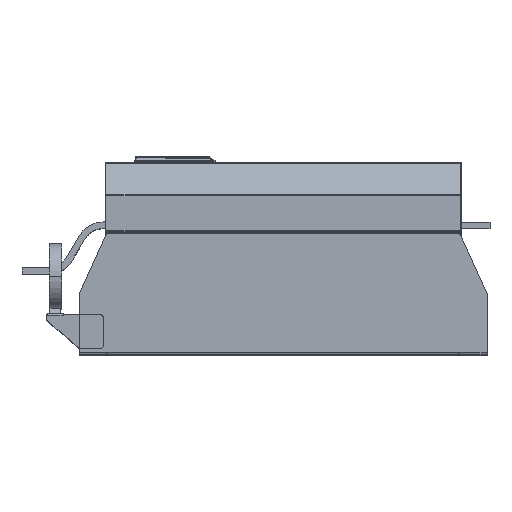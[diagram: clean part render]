
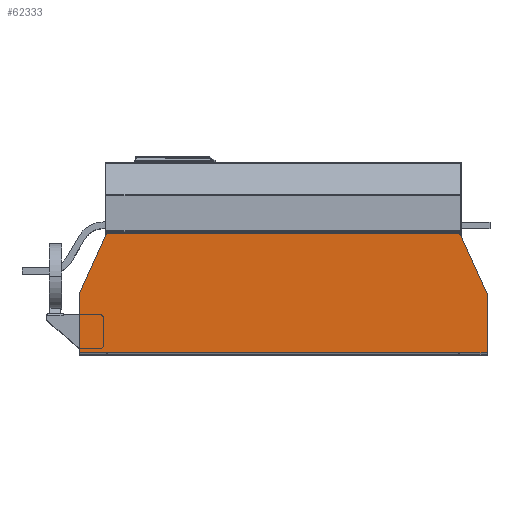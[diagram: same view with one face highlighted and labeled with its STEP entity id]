
A CAD part, top view. The second image highlights one B-rep face of the part: STEP entity #62333.
In plain terms, the highlighted planar face has unit normal (0, 0, 1).
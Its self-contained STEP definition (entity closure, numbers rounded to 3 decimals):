
#14289 = CARTESIAN_POINT ( 'NONE',  ( -375., 2.8, 286.9 ) ) ;
#17012 = LINE ( 'NONE', #196006, #18585 ) ;
#17229 = VECTOR ( 'NONE', #195903, 1000. ) ;
#17415 = LINE ( 'NONE', #195525, #17472 ) ;
#17470 = LINE ( 'NONE', #196001, #19702 ) ;
#17472 = VECTOR ( 'NONE', #195506, 1000. ) ;
#17692 = VECTOR ( 'NONE', #181938, 1000. ) ;
#18295 = LINE ( 'NONE', #195443, #18636 ) ;
#18326 = LINE ( 'NONE', #195682, #20147 ) ;
#18561 = LINE ( 'NONE', #195897, #17229 ) ;
#18585 = VECTOR ( 'NONE', #196003, 1000. ) ;
#18636 = VECTOR ( 'NONE', #195240, 1000. ) ;
#18726 = VECTOR ( 'NONE', #182132, 1000. ) ;
#19092 = LINE ( 'NONE', #182154, #18726 ) ;
#19340 = VECTOR ( 'NONE', #195910, 1000. ) ;
#19442 = VECTOR ( 'NONE', #195724, 1000. ) ;
#19702 = VECTOR ( 'NONE', #196008, 1000. ) ;
#19816 = LINE ( 'NONE', #195917, #19340 ) ;
#19922 = LINE ( 'NONE', #182074, #17692 ) ;
#19931 = LINE ( 'NONE', #195719, #19442 ) ;
#20147 = VECTOR ( 'NONE', #195660, 1000. ) ;
#34592 = CARTESIAN_POINT ( 'NONE',  ( 325., 221.2, 286.9 ) ) ;
#35121 = CARTESIAN_POINT ( 'NONE',  ( -325., 221.2, 286.9 ) ) ;
#35377 = CARTESIAN_POINT ( 'NONE',  ( 375., 2.8, 286.9 ) ) ;
#35496 = CARTESIAN_POINT ( 'NONE',  ( 325., 222.2, 286.9 ) ) ;
#37805 = EDGE_CURVE ( 'NONE', #185722, #112863, #19092, .T. ) ;
#37816 = EDGE_CURVE ( 'NONE', #113600, #185722, #19922, .T. ) ;
#37829 = EDGE_CURVE ( 'NONE', #186210, #186131, #18295, .T. ) ;
#37845 = EDGE_CURVE ( 'NONE', #186131, #112453, #17470, .T. ) ;
#37847 = EDGE_CURVE ( 'NONE', #112453, #113600, #17012, .T. ) ;
#37869 = EDGE_CURVE ( 'NONE', #112863, #186300, #19816, .T. ) ;
#37876 = EDGE_CURVE ( 'NONE', #186384, #115104, #18561, .T. ) ;
#37928 = EDGE_CURVE ( 'NONE', #113555, #115104, #19931, .T. ) ;
#37943 = EDGE_CURVE ( 'NONE', #113555, #186210, #18326, .T. ) ;
#37985 = EDGE_CURVE ( 'NONE', #186300, #186384, #17415, .T. ) ;
#50815 = FACE_OUTER_BOUND ( 'NONE', #125783, .T. ) ;
#62333 = ADVANCED_FACE ( 'NONE', ( #50815 ), #170796, .T. ) ;
#111929 = ORIENTED_EDGE ( 'NONE', *, *, #37847, .T. ) ;
#111931 = ORIENTED_EDGE ( 'NONE', *, *, #37816, .T. ) ;
#111934 = ORIENTED_EDGE ( 'NONE', *, *, #37805, .T. ) ;
#111938 = ORIENTED_EDGE ( 'NONE', *, *, #37869, .T. ) ;
#111941 = ORIENTED_EDGE ( 'NONE', *, *, #37985, .T. ) ;
#111944 = ORIENTED_EDGE ( 'NONE', *, *, #37876, .T. ) ;
#111946 = ORIENTED_EDGE ( 'NONE', *, *, #37928, .F. ) ;
#111949 = ORIENTED_EDGE ( 'NONE', *, *, #37943, .T. ) ;
#111952 = ORIENTED_EDGE ( 'NONE', *, *, #37829, .T. ) ;
#111955 = ORIENTED_EDGE ( 'NONE', *, *, #37845, .T. ) ;
#112453 = VERTEX_POINT ( 'NONE', #34592 ) ;
#112863 = VERTEX_POINT ( 'NONE', #35121 ) ;
#113135 = AXIS2_PLACEMENT_3D ( 'NONE', #170762, #170756, #170752 ) ;
#113555 = VERTEX_POINT ( 'NONE', #35377 ) ;
#113600 = VERTEX_POINT ( 'NONE', #35496 ) ;
#115104 = VERTEX_POINT ( 'NONE', #14289 ) ;
#125783 = EDGE_LOOP ( 'NONE', ( #111929, #111931, #111934, #111938, #111941, #111944, #111946, #111949, #111952, #111955 ) ) ;
#170752 = DIRECTION ( 'NONE',  ( 0., -1., 0. ) ) ;
#170756 = DIRECTION ( 'NONE',  ( 0., 0., 1. ) ) ;
#170762 = CARTESIAN_POINT ( 'NONE',  ( -325., 0., 286.9 ) ) ;
#170796 = PLANE ( 'NONE',  #113135 ) ;
#181938 = DIRECTION ( 'NONE',  ( -1., 0., 0. ) ) ;
#182074 = CARTESIAN_POINT ( 'NONE',  ( -325., 222.2, 286.9 ) ) ;
#182132 = DIRECTION ( 'NONE',  ( 0., -1., 0. ) ) ;
#182154 = CARTESIAN_POINT ( 'NONE',  ( -325., 0., 286.9 ) ) ;
#182386 = CARTESIAN_POINT ( 'NONE',  ( -325., 222.2, 286.9 ) ) ;
#183128 = CARTESIAN_POINT ( 'NONE',  ( 325.814, 221.2, 286.9 ) ) ;
#183233 = CARTESIAN_POINT ( 'NONE',  ( 375., 112.5, 286.9 ) ) ;
#183402 = CARTESIAN_POINT ( 'NONE',  ( -325.814, 221.2, 286.9 ) ) ;
#183677 = CARTESIAN_POINT ( 'NONE',  ( -375., 112.5, 286.9 ) ) ;
#185722 = VERTEX_POINT ( 'NONE', #182386 ) ;
#186131 = VERTEX_POINT ( 'NONE', #183128 ) ;
#186210 = VERTEX_POINT ( 'NONE', #183233 ) ;
#186300 = VERTEX_POINT ( 'NONE', #183402 ) ;
#186384 = VERTEX_POINT ( 'NONE', #183677 ) ;
#195240 = DIRECTION ( 'NONE',  ( -0.412, 0.911, 0. ) ) ;
#195443 = CARTESIAN_POINT ( 'NONE',  ( 375., 112.5, 286.9 ) ) ;
#195506 = DIRECTION ( 'NONE',  ( -0.412, -0.911, 0. ) ) ;
#195525 = CARTESIAN_POINT ( 'NONE',  ( -325., 223., 286.9 ) ) ;
#195660 = DIRECTION ( 'NONE',  ( 0., 1., 0. ) ) ;
#195682 = CARTESIAN_POINT ( 'NONE',  ( 375., 0., 286.9 ) ) ;
#195719 = CARTESIAN_POINT ( 'NONE',  ( -375., 2.8, 286.9 ) ) ;
#195724 = DIRECTION ( 'NONE',  ( -1., 0., 0. ) ) ;
#195897 = CARTESIAN_POINT ( 'NONE',  ( -375., 0., 286.9 ) ) ;
#195903 = DIRECTION ( 'NONE',  ( 0., -1., 0. ) ) ;
#195910 = DIRECTION ( 'NONE',  ( -1., 0., 0. ) ) ;
#195917 = CARTESIAN_POINT ( 'NONE',  ( -325., 221.2, 286.9 ) ) ;
#196001 = CARTESIAN_POINT ( 'NONE',  ( -325., 221.2, 286.9 ) ) ;
#196003 = DIRECTION ( 'NONE',  ( 0., 1., 0. ) ) ;
#196006 = CARTESIAN_POINT ( 'NONE',  ( 325., 0., 286.9 ) ) ;
#196008 = DIRECTION ( 'NONE',  ( -1., 0., 0. ) ) ;
